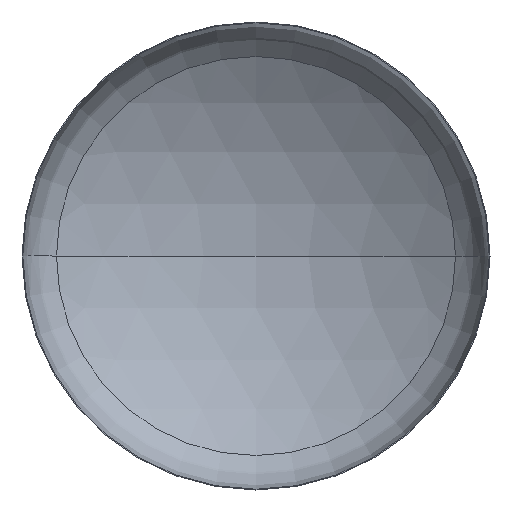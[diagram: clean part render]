
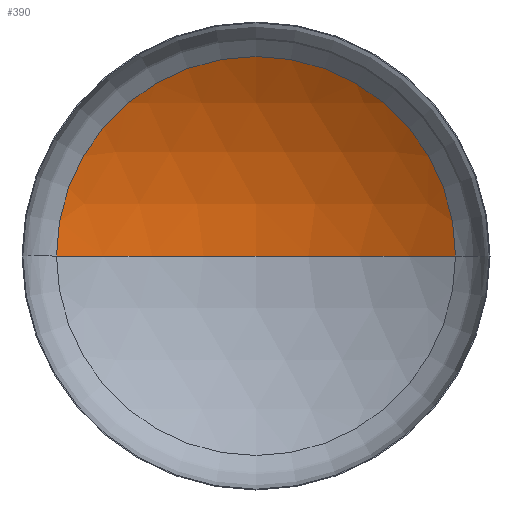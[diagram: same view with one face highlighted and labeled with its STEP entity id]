
A CAD part, front view. The second image highlights one B-rep face of the part: STEP entity #390.
In plain terms, the highlighted spherical face has radius 1920 mm.
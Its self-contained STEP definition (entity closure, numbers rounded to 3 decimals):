
#1 = AXIS2_PLACEMENT_3D ( 'NONE', #137, #93, #286 ) ;
#15 = AXIS2_PLACEMENT_3D ( 'NONE', #153, #164, #327 ) ;
#19 = AXIS2_PLACEMENT_3D ( 'NONE', #298, #301, #65 ) ;
#20 = EDGE_LOOP ( 'NONE', ( #107, #37, #144 ) ) ;
#28 = AXIS2_PLACEMENT_3D ( 'NONE', #104, #108, #111 ) ;
#37 = ORIENTED_EDGE ( 'NONE', *, *, #345, .T. ) ;
#51 = VERTEX_POINT ( 'NONE', #252 ) ;
#65 = DIRECTION ( 'NONE',  ( 1., 0., 0. ) ) ;
#93 = DIRECTION ( 'NONE',  ( 0., 0., -1. ) ) ;
#104 = CARTESIAN_POINT ( 'NONE',  ( 0., 333.085, 0. ) ) ;
#107 = ORIENTED_EDGE ( 'NONE', *, *, #353, .F. ) ;
#108 = DIRECTION ( 'NONE',  ( 0., -1., 0. ) ) ;
#111 = DIRECTION ( 'NONE',  ( 1., 0., 0. ) ) ;
#119 = VERTEX_POINT ( 'NONE', #219 ) ;
#137 = CARTESIAN_POINT ( 'NONE',  ( 0., -1291.573, 0. ) ) ;
#144 = ORIENTED_EDGE ( 'NONE', *, *, #343, .T. ) ;
#153 = CARTESIAN_POINT ( 'NONE',  ( 0., -1291.573, 0. ) ) ;
#164 = DIRECTION ( 'NONE',  ( 0., 0., -1. ) ) ;
#166 = VERTEX_POINT ( 'NONE', #186 ) ;
#186 = CARTESIAN_POINT ( 'NONE',  ( -1023.174, 333.085, 0. ) ) ;
#219 = CARTESIAN_POINT ( 'NONE',  ( 1023.174, 333.085, 0. ) ) ;
#252 = CARTESIAN_POINT ( 'NONE',  ( 0., 628.427, 0. ) ) ;
#259 = SPHERICAL_SURFACE ( 'NONE', #1, 1920. ) ;
#265 = FACE_OUTER_BOUND ( 'NONE', #20, .T. ) ;
#272 = CIRCLE ( 'NONE', #15, 1920. ) ;
#277 = CIRCLE ( 'NONE', #28, 1023.174 ) ;
#286 = DIRECTION ( 'NONE',  ( -1., 0., 0. ) ) ;
#298 = CARTESIAN_POINT ( 'NONE',  ( 0., -1291.573, 0. ) ) ;
#301 = DIRECTION ( 'NONE',  ( 0., 0., 1. ) ) ;
#327 = DIRECTION ( 'NONE',  ( -1., 0., 0. ) ) ;
#343 = EDGE_CURVE ( 'NONE', #119, #166, #277, .T. ) ;
#345 = EDGE_CURVE ( 'NONE', #51, #119, #272, .T. ) ;
#353 = EDGE_CURVE ( 'NONE', #51, #166, #398, .T. ) ;
#390 = ADVANCED_FACE ( 'NONE', ( #265 ), #259, .F. ) ;
#398 = CIRCLE ( 'NONE', #19, 1920. ) ;
